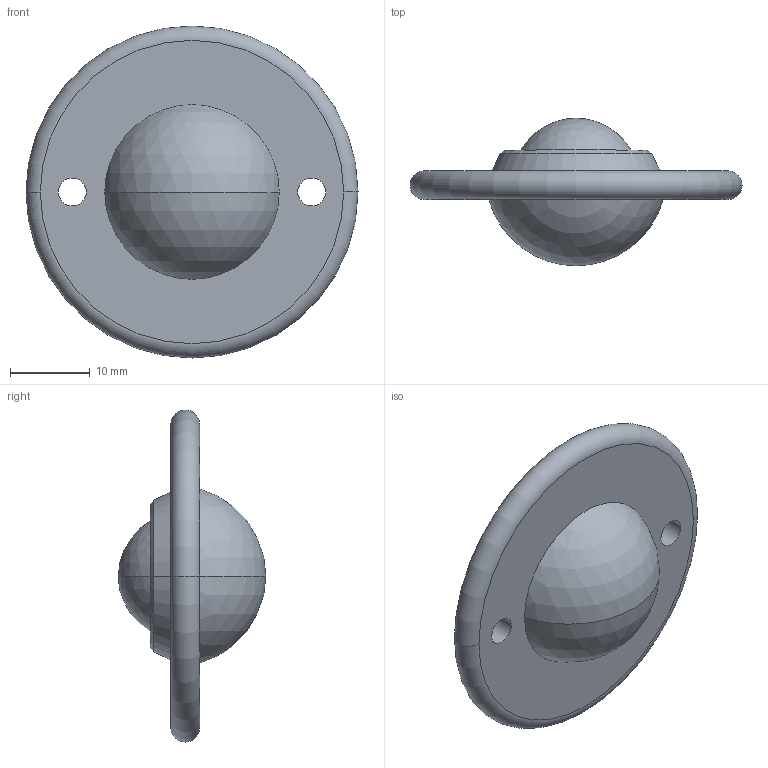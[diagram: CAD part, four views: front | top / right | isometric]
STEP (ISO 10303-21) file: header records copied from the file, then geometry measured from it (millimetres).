
FILE_DESCRIPTION (( 'STEP AP203' ), '1' );
FILE_NAME ('pv15u.STEP', '2015-06-07T15:34:54', ( '' ), ( '' ), 'SwSTEP 2.0', 'SolidWorks 2015', '' );
FILE_SCHEMA (( 'CONFIG_CONTROL_DESIGN' ));
Length unit declared in the file: millimetre
Products named in the file (1): pv15u
Bounding box: 41.6 x 18.5 x 41.6 mm (x, y, z)
Volume: 7627.4 mm3; surface area: 3385.3 mm2
Topology: 1 solids, 1 shells, 17 faces, 36 edges, 24 vertices
Faces by surface type: cylinder 4, cone 4, sphere 4, plane 3, torus 2
Entity records: 563 total; most frequent: DIRECTION 100, CARTESIAN_POINT 78, ORIENTED_EDGE 72, AXIS2_PLACEMENT_3D 46, EDGE_CURVE 36, CIRCLE 28, VERTEX_POINT 24, EDGE_LOOP 24
